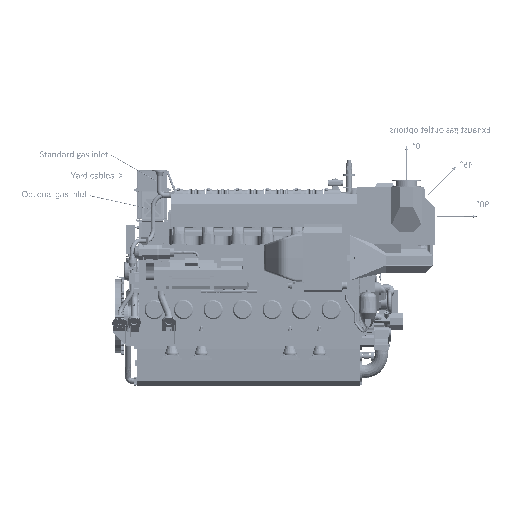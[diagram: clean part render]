
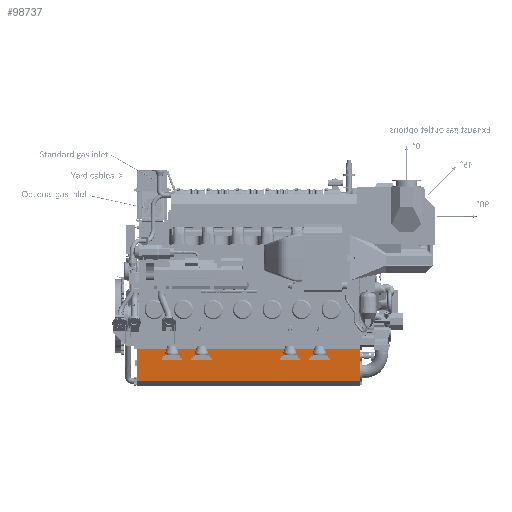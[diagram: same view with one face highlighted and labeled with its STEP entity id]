
A CAD part, front view. The second image highlights one B-rep face of the part: STEP entity #98737.
In plain terms, the highlighted planar face has unit normal (0, -0.999, -0.052).
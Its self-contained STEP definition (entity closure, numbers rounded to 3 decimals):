
#18028=LINE('',#578080,#41183);
#18042=LINE('',#578131,#41197);
#18052=LINE('',#578158,#41207);
#18053=LINE('',#578160,#41208);
#41183=VECTOR('',#363471,1.);
#41197=VECTOR('',#363509,1.);
#41207=VECTOR('',#363533,1.);
#41208=VECTOR('',#363536,1.);
#61468=FACE_OUTER_BOUND('',#132325,.T.);
#98737=ADVANCED_FACE('',(#61468),#109608,.F.);
#109608=PLANE('',#311022);
#132325=EDGE_LOOP('',(#191249,#191250,#191251,#191252));
#191249=ORIENTED_EDGE('',*,*,#272817,.T.);
#191250=ORIENTED_EDGE('',*,*,#272857,.F.);
#191251=ORIENTED_EDGE('',*,*,#272842,.F.);
#191252=ORIENTED_EDGE('',*,*,#272856,.T.);
#237656=VERTEX_POINT('',#578079);
#237657=VERTEX_POINT('',#578081);
#237681=VERTEX_POINT('',#578130);
#237682=VERTEX_POINT('',#578132);
#272817=EDGE_CURVE('',#237657,#237656,#18028,.T.);
#272842=EDGE_CURVE('',#237681,#237682,#18042,.T.);
#272856=EDGE_CURVE('',#237681,#237657,#18052,.T.);
#272857=EDGE_CURVE('',#237682,#237656,#18053,.T.);
#311022=AXIS2_PLACEMENT_3D('',#578161,#363537,#363538);
#363471=DIRECTION('',(0.,-0.052,0.999));
#363509=DIRECTION('',(0.,-0.052,0.999));
#363533=DIRECTION('',(1.,0.,0.));
#363536=DIRECTION('',(1.,0.,0.));
#363537=DIRECTION('',(0.,0.999,0.052));
#363538=DIRECTION('',(0.,-0.052,0.999));
#578079=CARTESIAN_POINT('',(0.,-440.25,-545.));
#578080=CARTESIAN_POINT('',(0.,-412.339,-1079.568));
#578081=CARTESIAN_POINT('',(0.,-412.339,-1079.568));
#578130=CARTESIAN_POINT('',(-3710.,-412.339,-1079.568));
#578131=CARTESIAN_POINT('',(-3710.,-412.339,-1079.568));
#578132=CARTESIAN_POINT('',(-3710.,-440.25,-545.));
#578158=CARTESIAN_POINT('',(-3710.,-412.339,-1079.568));
#578160=CARTESIAN_POINT('',(-3710.,-440.25,-545.));
#578161=CARTESIAN_POINT('',(-3710.,-412.339,-1079.568));
